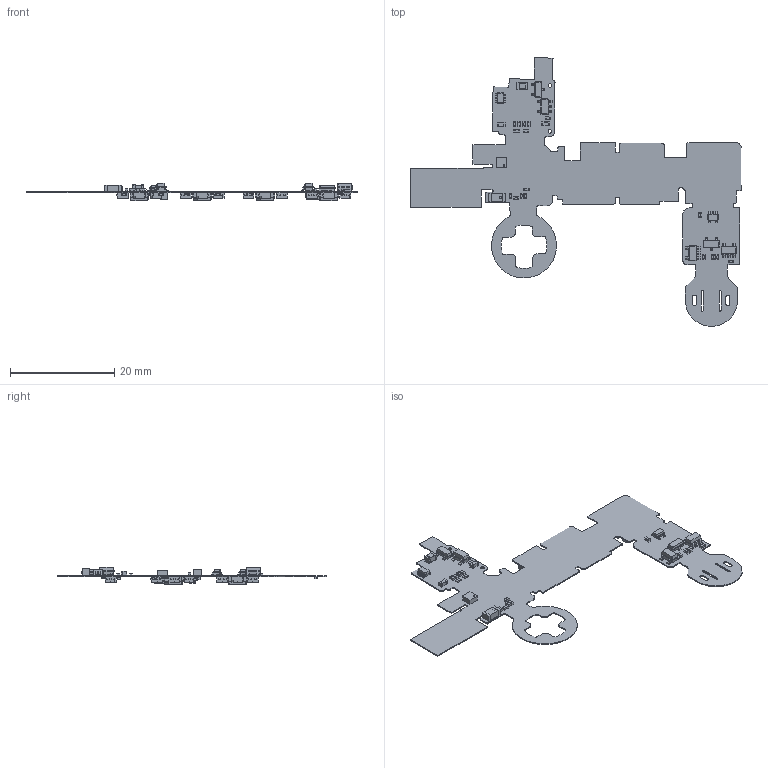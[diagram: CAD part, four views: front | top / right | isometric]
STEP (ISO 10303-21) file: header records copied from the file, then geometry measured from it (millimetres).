
FILE_DESCRIPTION(('KiCad electronic assembly'),'2;1');
FILE_NAME('Main.step','2024-12-18T10:56:02',('Pcbnew'),('Kicad'), 'Open CASCADE STEP processor 7.8','KiCad to STEP converter','Unknown' );
FILE_SCHEMA(('AUTOMOTIVE_DESIGN { 1 0 10303 214 1 1 1 1 }'));
Length unit declared in the file: millimetre
Products named in the file (32): Main 1; C_0402_1005Metric; SOT-353_SC-70-5; SOT_353_SC_70_5; SOT-23-5; SOT_23_5; SOT-23; SOT_23; R_0402_1005Metric; C_0603_1608Metric; SOT-363_SC-70-6; SOT_363_SC_70_6; LGA-12_2x2mm_P0.5mm; LGA_12_2x2mm_P05mm; C_0805_2012Metric; AMCA31-2R450G-SIF-T3 v1-combined; Fusion; TX1812Z 2020 v2-combined; L_0805_2012Metric; L_0402_1005Metric; TX1812EXA5-F10-3535 v0; Main_PCB
Assembly tree (93 placements, depth 3):
  Main 1
    C_0402_1005Metric  x23
      C_0402_1005Metric
    SOT-353_SC-70-5
      SOT_353_SC_70_5
    SOT-23-5
      SOT_23_5
    SOT-23  x3
      SOT_23
    SOT-23-5  x2
      SOT_23_5
    R_0402_1005Metric  x13
      R_0402_1005Metric
    C_0603_1608Metric  x2
      C_0603_1608Metric
    SOT-363_SC-70-6
      SOT_363_SC_70_6
    LGA-12_2x2mm_P0.5mm
      LGA_12_2x2mm_P05mm
    C_0805_2012Metric
      C_0805_2012Metric
    AMCA31-2R450G-SIF-T3 v1-combined
      Fusion
    TX1812Z 2020 v2-combined  x21
      Fusion
    L_0805_2012Metric
      L_0805_2012Metric
    L_0402_1005Metric
      L_0402_1005Metric
    TX1812EXA5-F10-3535 v0  x5
      TX1812EXA5-F10-3535 v0
    Main_PCB
Bounding box: 63.45 x 51.61 x 3.35 mm (x, y, z)
Volume: 442.5 mm3; surface area: 3269.6 mm2
Topology: 98 solids, 98 shells, 3084 faces, 7948 edges, 5156 vertices
Faces by surface type: plane 2109, cylinder 743, bspline 227, cone 5
Full cylindrical faces by diameter (mm): 0.35 x1, 0.7 x2, 1.6 x21
Entity records: 38930 total; most frequent: CARTESIAN_POINT 6350, ORIENTED_EDGE 5598, DIRECTION 5253, EDGE_CURVE 2799, LINE 2091, VECTOR 2091, VERTEX_POINT 1782, AXIS2_PLACEMENT_3D 1581
